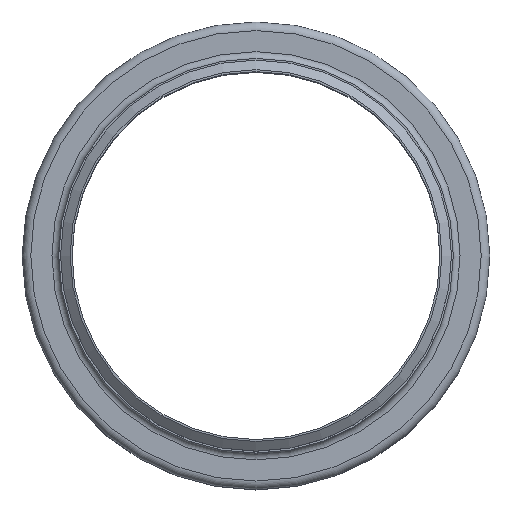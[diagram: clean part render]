
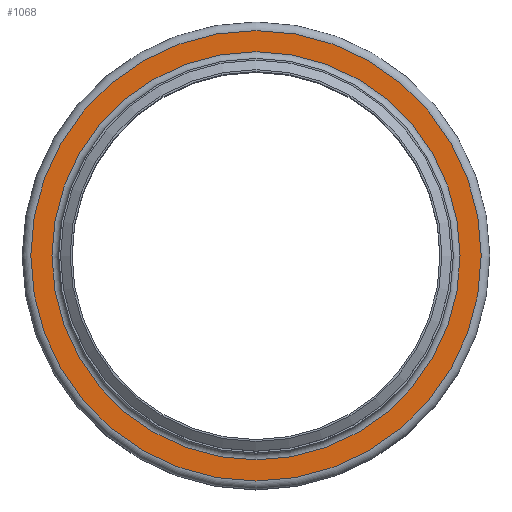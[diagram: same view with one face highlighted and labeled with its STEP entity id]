
A CAD part, top view. The second image highlights one B-rep face of the part: STEP entity #1068.
In plain terms, the highlighted planar face has unit normal (0, 0, 1).
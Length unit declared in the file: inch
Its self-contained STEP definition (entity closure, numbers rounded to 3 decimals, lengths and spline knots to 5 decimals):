
#102=FACE_BOUND('',#282,.T.);
#171=FACE_OUTER_BOUND('',#281,.T.);
#281=EDGE_LOOP('',(#824));
#282=EDGE_LOOP('',(#825));
#402=CIRCLE('',#1264,6.655);
#403=CIRCLE('',#1266,7.345);
#491=VERTEX_POINT('',#1935);
#492=VERTEX_POINT('',#1939);
#606=EDGE_CURVE('',#491,#491,#402,.T.);
#607=EDGE_CURVE('',#492,#492,#403,.T.);
#824=ORIENTED_EDGE('',*,*,#607,.F.);
#825=ORIENTED_EDGE('',*,*,#606,.T.);
#918=PLANE('',#1265);
#1068=ADVANCED_FACE('',(#171,#102),#918,.T.);
#1264=AXIS2_PLACEMENT_3D('',#1937,#1621,#1622);
#1265=AXIS2_PLACEMENT_3D('',#1938,#1623,#1624);
#1266=AXIS2_PLACEMENT_3D('',#1940,#1625,#1626);
#1621=DIRECTION('center_axis',(0.,0.,
-1.));
#1622=DIRECTION('ref_axis',(1.,0.,0.));
#1623=DIRECTION('center_axis',(0.,0.,
1.));
#1624=DIRECTION('ref_axis',(1.,0.,0.));
#1625=DIRECTION('center_axis',(0.,0.,
-1.));
#1626=DIRECTION('ref_axis',(1.,0.,0.));
#1935=CARTESIAN_POINT('',(6.655,0.,-1.72));
#1937=CARTESIAN_POINT('Origin',(0.,0.,
-1.72));
#1938=CARTESIAN_POINT('Origin',(0.,7.345,-1.72));
#1939=CARTESIAN_POINT('',(7.345,0.,-1.72));
#1940=CARTESIAN_POINT('Origin',(0.,0.,
-1.72));
